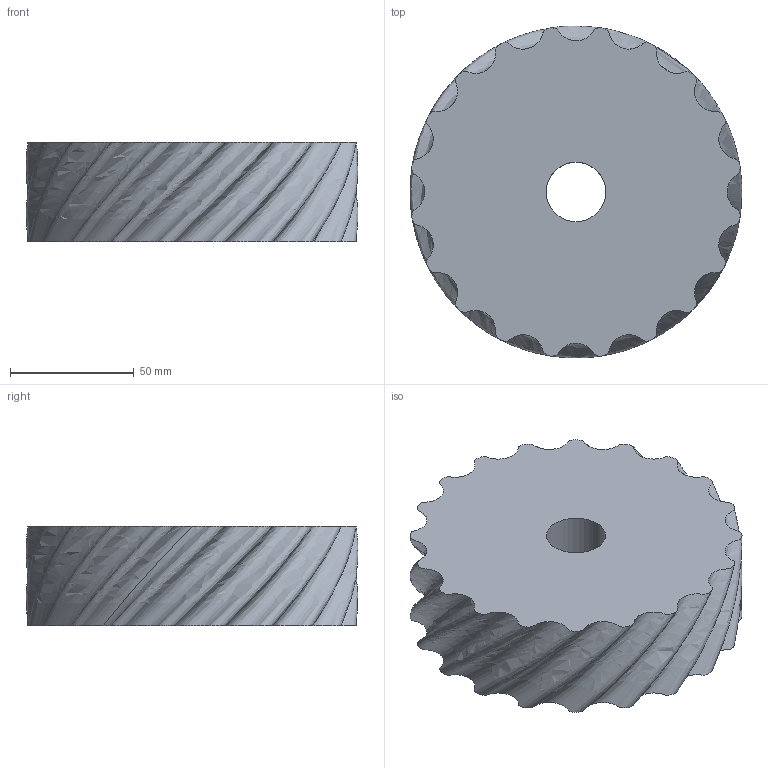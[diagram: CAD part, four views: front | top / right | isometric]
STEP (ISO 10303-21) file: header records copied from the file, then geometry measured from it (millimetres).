
FILE_DESCRIPTION (( 'STEP AP203' ), '1' );
FILE_NAME ('Output_Gear.step', '2024-10-11T00:46:58', ( '' ), ( '' ), 'SwSTEP 2.0', 'SolidWorks 2023', '' );
FILE_SCHEMA (( 'CONFIG_CONTROL_DESIGN' ));
Length unit declared in the file: millimetre
Products named in the file (1): Output_Gear
Bounding box: 133.99 x 133.97 x 40 mm (x, y, z)
Volume: 492389.9 mm3; surface area: 50221.8 mm2
Topology: 1 solids, 1 shells, 6 faces, 12 edges, 8 vertices
Faces by surface type: cylinder 2, plane 2, bspline 2
Entity records: 13843 total; most frequent: CARTESIAN_POINT 13651, ORIENTED_EDGE 24, DIRECTION 20, EDGE_CURVE 12, AXIS2_PLACEMENT_3D 9, EDGE_LOOP 8, PERSON_AND_ORGANIZATION 8, VERTEX_POINT 8
